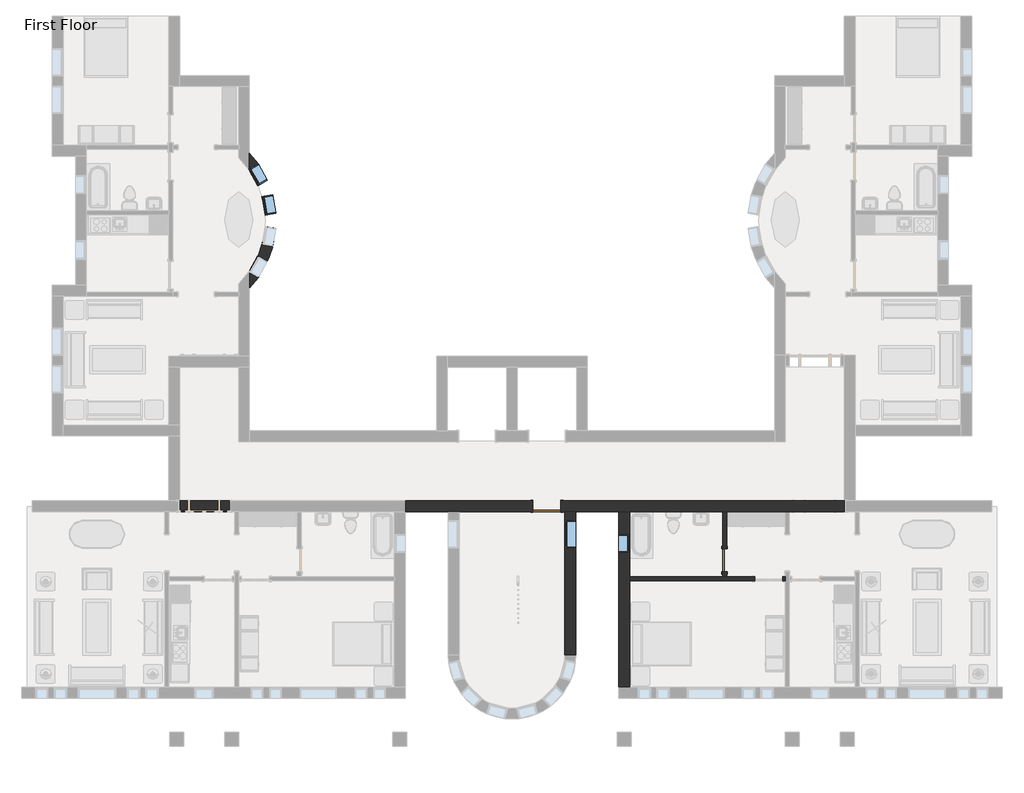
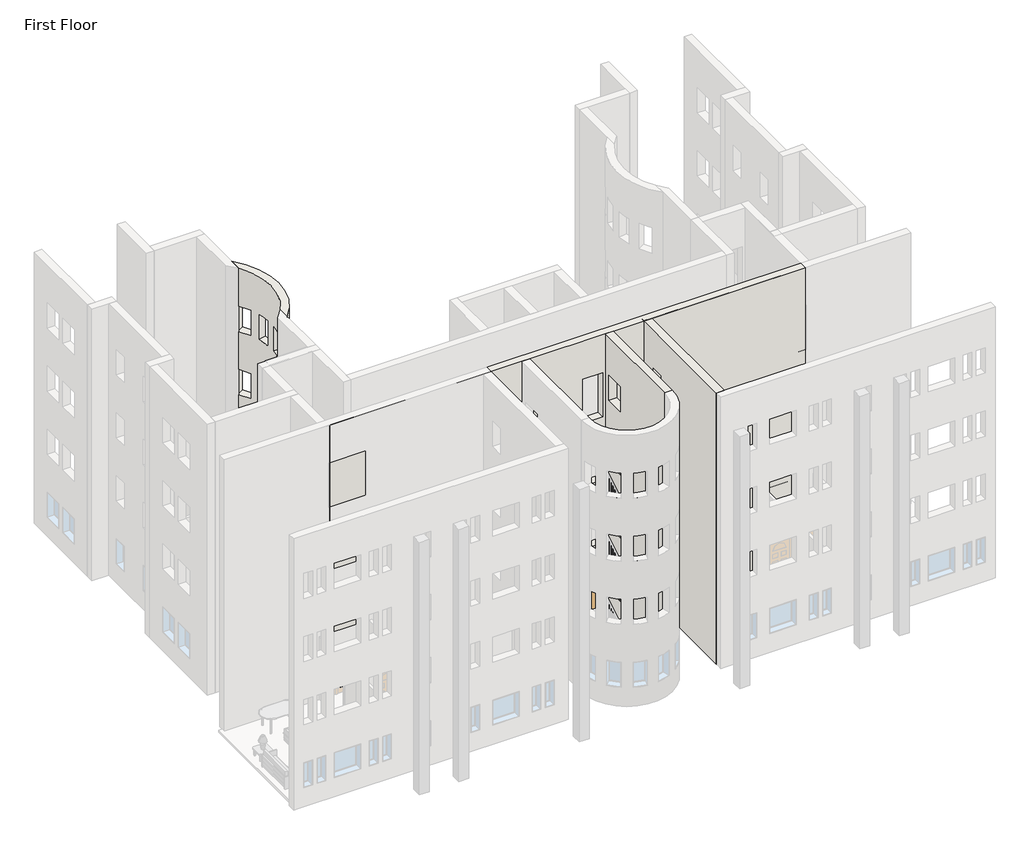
# One storey, part 5 of 21: 6 walls, 4 windows, 2 doors.
"""IFC4 building model written with IfcOpenShell, lengths in millimetres."""

from ifc_helpers import new_model, si_unit, frame, origin, place, context, project, spatial, polyline, circle_curve, outline, extrude, faceted_brep, transform, mapped, element, save
from ifc_brep_helpers import plane_surface, cylinder_surface, revolved_surface, advanced_brep
from components import door_e36758a9, door_cc5399a4, window_ed80354a, window_0e2fc6ce

model = new_model("IFC4")

# Units and contexts
model_context = context("Model", 3, world=origin())
ifc_project = project(units=[si_unit("LENGTHUNIT", "METRE", prefix="MILLI")], contexts=[model_context])

# Site, building, storey
site = spatial("IfcSite", under=ifc_project)
building = spatial("IfcBuilding", under=site)
storey = spatial("IfcBuildingStorey", under=building, Name="First Floor", Elevation=0.0)

# Doors
placement = place(None, origin())
door_shape = door_e36758a9(model_context)
element("IfcDoor", 1, ObjectType="Single-Flush : 30\" x 84\"", at=placement, inside=storey, context=model_context, shape_type="MappedRepresentation", body=[
    mapped(door_shape, transform((-8105.7464563, -29804.8308133, 0.0), x_axis=(0.0, -1.0, 0.0), y_axis=(1.0, 0.0, 0.0), z_axis=(0.0, 0.0, 1.0))),
])
door_2_shape = door_cc5399a4(model_context)
element("IfcDoor", 2, ObjectType="Single-Flush : 36\" x 84\"", at=placement, inside=storey, context=model_context, shape_type="MappedRepresentation", body=[
    mapped(door_2_shape, transform((-13919.1714563, -28041.1183133, 0.0), x_axis=(1.0, 0.0, 0.0), y_axis=(0.0, 1.0, 0.0), z_axis=(0.0, 0.0, 1.0))),
])

# Walls
element("IfcWall", 3, ObjectType="Exterior - Brick on Mtl. Stud", at=placement, inside=storey, context=model_context, shape_type="Brep", body=[
    faceted_brep([(-11569.6714563, -28217.3308133, 0.0), (-11569.6714563, -33960.9058133, 0.0), (-11569.6714563, -33960.9058133, 13106.4), (-11569.6714563, -28217.3308133, 13106.4), (-11569.6714563, -28955.5183133, 8229.6), (-11569.6714563, -29565.1183133, 8229.6), (-11569.6714563, -29565.1183133, 7010.4), (-11569.6714563, -28955.5183133, 7010.4), (-11569.6714563, -28955.5183133, 5181.6), (-11569.6714563, -29565.1183133, 5181.6), (-11569.6714563, -29565.1183133, 3962.4), (-11569.6714563, -28955.5183133, 3962.4), (-11569.6714563, -28955.5183133, 11277.6), (-11569.6714563, -29565.1183133, 11277.6), (-11569.6714563, -29565.1183133, 10058.4), (-11569.6714563, -28955.5183133, 10058.4), (-11569.6714563, -28955.5183133, 2133.6), (-11569.6714563, -29565.1183133, 2133.6), (-11569.6714563, -29565.1183133, 914.4), (-11569.6714563, -28955.5183133, 914.4), (-11217.2464563, -28217.3308133, 0.0), (-11217.2464563, -28217.3308133, 13106.4), (-11217.2464563, -33960.9058133, 13106.4), (-11217.2464563, -33960.9058133, 0.0), (-11217.2464563, -30477.9308133, 0.0), (-11217.2464563, -30350.9308133, 0.0), (-11217.2464563, -28955.5183133, 8229.6), (-11217.2464563, -28955.5183133, 7010.4), (-11217.2464563, -29565.1183133, 7010.4), (-11217.2464563, -29565.1183133, 8229.6), (-11217.2464563, -28955.5183133, 5181.6), (-11217.2464563, -28955.5183133, 3962.4), (-11217.2464563, -29565.1183133, 3962.4), (-11217.2464563, -29565.1183133, 5181.6), (-11217.2464563, -28955.5183133, 11277.6), (-11217.2464563, -28955.5183133, 10058.4), (-11217.2464563, -29565.1183133, 10058.4), (-11217.2464563, -29565.1183133, 11277.6), (-11217.2464563, -28955.5183133, 2133.6), (-11217.2464563, -28955.5183133, 914.4), (-11217.2464563, -29565.1183133, 914.4), (-11217.2464563, -29565.1183133, 2133.6), (-11382.3464563, -28217.3308133, 0.0), (-11382.3464563, -33960.9058133, 0.0)], [[[0, 1, 2, 3], [4, 5, 6, 7], [8, 9, 10, 11], [12, 13, 14, 15], [16, 17, 18, 19]], [[20, 21, 22, 23, 24, 25], [26, 27, 28, 29], [30, 31, 32, 33], [34, 35, 36, 37], [38, 39, 40, 41]], [[3, 2, 22, 21]], [[0, 3, 21, 20, 42]], [[2, 1, 43, 23, 22]], [[1, 0, 42, 43]], [[42, 20, 25, 24, 23, 43]], [[27, 26, 4, 7]], [[28, 27, 7, 6]], [[29, 28, 6, 5]], [[26, 29, 5, 4]], [[31, 30, 8, 11]], [[32, 31, 11, 10]], [[33, 32, 10, 9]], [[30, 33, 9, 8]], [[35, 34, 12, 15]], [[36, 35, 15, 14]], [[37, 36, 14, 13]], [[34, 37, 13, 12]], [[39, 38, 16, 19]], [[40, 39, 19, 18]], [[41, 40, 18, 17]], [[38, 41, 17, 16]]]),
])
element("IfcWall", 4, ObjectType="Exterior - Brick on Mtl. Stud", at=placement, inside=storey, context=model_context, shape_type="Brep", body=[
    faceted_brep([(-4189.3839563, -27864.9058133, 0.0), (-13461.9714563, -27864.9058133, 0.0), (-13461.9714563, -27864.9058133, 2133.6), (-14376.3714563, -27864.9058133, 2133.6), (-14376.3714563, -27864.9058133, 0.0), (-25934.9589563, -27864.9058133, 0.0), (-25934.9589563, -27864.9058133, 13106.4), (-4189.3839563, -27864.9058133, 13106.4), (-14376.3714563, -27864.9058133, 6096.0), (-13461.9714563, -27864.9058133, 6096.0), (-13461.9714563, -27864.9058133, 8229.6), (-14376.3714563, -27864.9058133, 8229.6), (-14376.3714563, -27864.9058133, 3048.0), (-13461.9714563, -27864.9058133, 3048.0), (-13461.9714563, -27864.9058133, 5181.6), (-14376.3714563, -27864.9058133, 5181.6), (-14376.3714563, -27864.9058133, 9144.0), (-13461.9714563, -27864.9058133, 9144.0), (-13461.9714563, -27864.9058133, 11277.6), (-14376.3714563, -27864.9058133, 11277.6), (-13461.9714563, -28217.3308133, 2133.6), (-13461.9714563, -28217.3308133, 0.0), (-13333.3839563, -28217.3308133, 0.0), (-12980.9589563, -28217.3308133, 0.0), (-8169.2464563, -28217.3308133, 0.0), (-8042.2464563, -28217.3308133, 0.0), (-6122.9589563, -28217.3308133, 0.0), (-5995.9589563, -28217.3308133, 0.0), (-4189.3839563, -28217.3308133, 0.0), (-4189.3839563, -28217.3308133, 13106.4), (-12980.9589563, -28217.3308133, 13106.4), (-13333.3839563, -28217.3308133, 13106.4), (-16790.9589563, -28217.3308133, 13106.4), (-17143.3839563, -28217.3308133, 13106.4), (-25934.9589563, -28217.3308133, 13106.4), (-25934.9589563, -28217.3308133, 0.0), (-24128.3839563, -28217.3308133, 0.0), (-24001.3839563, -28217.3308133, 0.0), (-22082.0964563, -28217.3308133, 0.0), (-21955.0964563, -28217.3308133, 0.0), (-17143.3839563, -28217.3308133, 0.0), (-16790.9589563, -28217.3308133, 0.0), (-14376.3714563, -28217.3308133, 0.0), (-14376.3714563, -28217.3308133, 2133.6), (-14376.3714563, -28217.3308133, 6096.0), (-14376.3714563, -28217.3308133, 8229.6), (-13461.9714563, -28217.3308133, 8229.6), (-13461.9714563, -28217.3308133, 6096.0), (-14376.3714563, -28217.3308133, 3048.0), (-14376.3714563, -28217.3308133, 5181.6), (-13461.9714563, -28217.3308133, 5181.6), (-13461.9714563, -28217.3308133, 3048.0), (-14376.3714563, -28217.3308133, 9144.0), (-14376.3714563, -28217.3308133, 11277.6), (-13461.9714563, -28217.3308133, 11277.6), (-13461.9714563, -28217.3308133, 9144.0)], [[[0, 1, 2, 3, 4, 5, 6, 7], [8, 9, 10, 11], [12, 13, 14, 15], [16, 17, 18, 19]], [[20, 21, 22, 23, 24, 25, 26, 27, 28, 29, 30, 31, 32, 33, 34, 35, 36, 37, 38, 39, 40, 41, 42, 43], [44, 45, 46, 47], [48, 49, 50, 51], [52, 53, 54, 55]], [[28, 27, 26, 25, 24, 23, 22, 21, 1, 0]], [[42, 41, 40, 39, 38, 37, 36, 35, 5, 4]], [[7, 6, 34, 33, 32, 31, 30, 29]], [[0, 7, 29, 28]], [[6, 5, 35, 34]], [[2, 1, 21, 20]], [[3, 2, 20, 43]], [[4, 3, 43, 42]], [[9, 8, 44, 47]], [[10, 9, 47, 46]], [[11, 10, 46, 45]], [[8, 11, 45, 44]], [[13, 12, 48, 51]], [[14, 13, 51, 50]], [[15, 14, 50, 49]], [[12, 15, 49, 48]], [[17, 16, 52, 55]], [[18, 17, 55, 54]], [[19, 18, 54, 53]], [[16, 19, 53, 52]]]),
])
element("IfcWall", 5, ObjectType="Exterior - Brick on Mtl. Stud", at=placement, inside=storey, context=model_context, shape_type="SweptSolid", body=[
    extrude(outline(polyline([(-28217.3308133, 0.0), (-32917.9183133, 0.0), (-32917.9183133, 13106.4), (-28217.3308133, 13106.4), (-28217.3308133, 0.0)]), holes=[polyline([(-29412.7183133, 8229.6), (-29412.7183133, 7010.4), (-28498.3183133, 7010.4), (-28498.3183133, 8229.6), (-29412.7183133, 8229.6)]), polyline([(-29412.7183133, 5181.6), (-29412.7183133, 3962.4), (-28498.3183133, 3962.4), (-28498.3183133, 5181.6), (-29412.7183133, 5181.6)]), polyline([(-29412.7183133, 11277.6), (-29412.7183133, 10058.4), (-28498.3183133, 10058.4), (-28498.3183133, 11277.6), (-29412.7183133, 11277.6)]), polyline([(-29412.7183133, 2133.6), (-29412.7183133, 914.4), (-28498.3183133, 914.4), (-28498.3183133, 2133.6), (-29412.7183133, 2133.6)])]), frame((-13333.3839563, 0.0, 0.0), z_axis=(1.0, 0.0, 0.0), x_axis=(0.0, 1.0, 0.0)), (0.0, 0.0, 1.0), 352.425),
])
element("IfcWall", 6, ObjectType="Exterior - Brick on Mtl. Stud", at=placement, inside=storey, context=model_context, shape_type="AdvancedBrep", body=[
    advanced_brep(
    [(-23648.9589563, -20907.8285473, 13106.4), (-23648.9589563, -16499.0580793, 13106.4), (-23648.9589563, -17056.9526635, 13106.4), (-23648.9589563, -20349.9339631, 13106.4), (-23648.9589563, -16499.0580793, 0.0), (-23648.9589563, -20907.8285473, 0.0), (-23648.9589563, -20349.9339631, 0.0), (-23648.9589563, -17056.9526635, 0.0), (-23063.8719855, -17375.4139611, 914.4), (-23063.8719855, -17375.4139611, 2133.6), (-23366.3500697, -16846.1511071, 2133.6), (-23366.3500697, -16846.1511071, 914.4), (-23063.8719855, -20031.4726656, 2133.6), (-23063.8719855, -20031.4726656, 914.4), (-23366.3500697, -20560.7355195, 914.4), (-23366.3500697, -20560.7355195, 2133.6), (-23063.8719855, -17375.4139611, 10058.4), (-23063.8719855, -17375.4139611, 11277.6), (-23366.3500697, -16846.1511071, 11277.6), (-23366.3500697, -16846.1511071, 10058.4), (-23063.8719855, -20031.4726656, 11277.6), (-23063.8719855, -20031.4726656, 10058.4), (-23366.3500697, -20560.7355195, 10058.4), (-23366.3500697, -20560.7355195, 11277.6), (-23063.8719855, -17375.4139611, 3962.4), (-23063.8719855, -17375.4139611, 5181.6), (-23366.3500697, -16846.1511071, 5181.6), (-23366.3500697, -16846.1511071, 3962.4), (-23063.8719855, -20031.4726656, 5181.6), (-23063.8719855, -20031.4726656, 3962.4), (-23366.3500697, -20560.7355195, 3962.4), (-23366.3500697, -20560.7355195, 5181.6), (-23063.8719855, -17375.4139611, 7010.4), (-23063.8719855, -17375.4139611, 8229.6), (-23366.3500697, -16846.1511071, 8229.6), (-23366.3500697, -16846.1511071, 7010.4), (-23063.8719855, -20031.4726656, 8229.6), (-23063.8719855, -20031.4726656, 7010.4), (-23366.3500697, -20560.7355195, 7010.4), (-23366.3500697, -20560.7355195, 8229.6), (-22786.9445035, -18947.8680431, 8229.6), (-22786.9445035, -18947.8680431, 7010.4), (-22890.4133094, -19548.6228734, 7010.4), (-22890.4133094, -19548.6228734, 8229.6), (-22786.9445035, -18459.0185836, 8229.6), (-22890.4133094, -17858.2637532, 8229.6), (-22890.4133094, -17858.2637532, 7010.4), (-22786.9445035, -18459.0185836, 7010.4), (-22786.9445035, -18947.8680431, 5181.6), (-22786.9445035, -18947.8680431, 3962.4), (-22890.4133094, -19548.6228734, 3962.4), (-22890.4133094, -19548.6228734, 5181.6), (-22786.9445035, -18459.0185836, 5181.6), (-22890.4133094, -17858.2637532, 5181.6), (-22890.4133094, -17858.2637532, 3962.4), (-22786.9445035, -18459.0185836, 3962.4), (-22786.9445035, -18947.8680431, 11277.6), (-22786.9445035, -18947.8680431, 10058.4), (-22890.4133094, -19548.6228734, 10058.4), (-22890.4133094, -19548.6228734, 11277.6), (-22786.9445035, -18459.0185836, 11277.6), (-22890.4133094, -17858.2637532, 11277.6), (-22890.4133094, -17858.2637532, 10058.4), (-22786.9445035, -18459.0185836, 10058.4), (-22786.9445035, -18947.8680431, 2133.6), (-22786.9445035, -18947.8680431, 914.4), (-22890.4133094, -19548.6228734, 914.4), (-22890.4133094, -19548.6228734, 2133.6), (-22786.9445035, -18459.0185836, 2133.6), (-22890.4133094, -17858.2637532, 2133.6), (-22890.4133094, -17858.2637532, 914.4), (-22786.9445035, -18459.0185836, 914.4), (-23648.9589563, -17056.9526635, 11277.6), (-23371.3988057, -17551.168074, 11277.6), (-23371.3988057, -17551.168074, 10058.4), (-23648.9589563, -17056.9526635, 10058.4), (-23648.9589563, -17056.9526635, 8229.6), (-23371.3988057, -17551.168074, 8229.6), (-23371.3988057, -17551.168074, 7010.4), (-23648.9589563, -17056.9526635, 7010.4), (-23648.9589563, -17056.9526635, 5181.6), (-23371.3988057, -17551.168074, 5181.6), (-23371.3988057, -17551.168074, 3962.4), (-23648.9589563, -17056.9526635, 3962.4), (-23648.9589563, -17056.9526635, 2133.6), (-23371.3988057, -17551.168074, 2133.6), (-23371.3988057, -17551.168074, 914.4), (-23648.9589563, -17056.9526635, 914.4), (-23648.9589563, -20349.9339631, 914.4), (-23371.3988057, -19855.7185526, 914.4), (-23371.3988057, -19855.7185526, 2133.6), (-23648.9589563, -20349.9339631, 2133.6), (-23648.9589563, -20349.9339631, 3962.4), (-23371.3988057, -19855.7185526, 3962.4), (-23371.3988057, -19855.7185526, 5181.6), (-23648.9589563, -20349.9339631, 5181.6), (-23648.9589563, -20349.9339631, 7010.4), (-23371.3988057, -19855.7185526, 7010.4), (-23371.3988057, -19855.7185526, 8229.6), (-23648.9589563, -20349.9339631, 8229.6), (-23648.9589563, -20349.9339631, 10058.4), (-23371.3988057, -19855.7185526, 10058.4), (-23371.3988057, -19855.7185526, 11277.6), (-23648.9589563, -20349.9339631, 11277.6), (-23136.0115527, -18887.7477595, 8229.6), (-23239.4803586, -19488.5025899, 8229.6), (-23239.4803586, -19488.5025899, 7010.4), (-23136.0115527, -18887.7477595, 7010.4), (-23136.0115527, -18519.1388671, 8229.6), (-23136.0115527, -18519.1388671, 7010.4), (-23239.4803586, -17918.3840368, 7010.4), (-23239.4803586, -17918.3840368, 8229.6), (-23136.0115527, -18887.7477595, 5181.6), (-23239.4803586, -19488.5025899, 5181.6), (-23239.4803586, -19488.5025899, 3962.4), (-23136.0115527, -18887.7477595, 3962.4), (-23136.0115527, -18519.1388671, 5181.6), (-23136.0115527, -18519.1388671, 3962.4), (-23239.4803586, -17918.3840368, 3962.4), (-23239.4803586, -17918.3840368, 5181.6), (-23136.0115527, -18887.7477595, 11277.6), (-23239.4803586, -19488.5025899, 11277.6), (-23239.4803586, -19488.5025899, 10058.4), (-23136.0115527, -18887.7477595, 10058.4), (-23136.0115527, -18519.1388671, 11277.6), (-23136.0115527, -18519.1388671, 10058.4), (-23239.4803586, -17918.3840368, 10058.4), (-23239.4803586, -17918.3840368, 11277.6), (-23136.0115527, -18887.7477595, 2133.6), (-23239.4803586, -19488.5025899, 2133.6), (-23239.4803586, -19488.5025899, 914.4), (-23136.0115527, -18887.7477595, 914.4), (-23136.0115527, -18519.1388671, 2133.6), (-23136.0115527, -18519.1388671, 914.4), (-23239.4803586, -17918.3840368, 914.4), (-23239.4803586, -17918.3840368, 2133.6), (-23648.9589563, -20399.222211, 11277.6), (-23648.9589563, -20399.222211, 10058.4), (-23648.9589563, -20399.222211, 8229.6), (-23648.9589563, -20399.222211, 7010.4), (-23648.9589563, -20399.222211, 5181.6), (-23648.9589563, -20399.222211, 3962.4), (-23648.9589563, -20399.222211, 2133.6), (-23648.9589563, -20399.222211, 914.4), (-23648.9589563, -17007.6644156, 914.4), (-23648.9589563, -17007.6644156, 2133.6), (-23648.9589563, -17007.6644156, 3962.4), (-23648.9589563, -17007.6644156, 5181.6), (-23648.9589563, -17007.6644156, 7010.4), (-23648.9589563, -17007.6644156, 8229.6), (-23648.9589563, -17007.6644156, 10058.4), (-23648.9589563, -17007.6644156, 11277.6)],
    [
        (0, 1, circle_curve(frame((-26001.8788413, -18703.4433133, 13106.4), z_axis=(0.0, 0.0, 1.0), x_axis=(0.0, -1.0, 0.0)), 3224.2125)),
        (1, 2),
        (2, 3, circle_curve(frame((-26001.8788413, -18703.4433133, 13106.4), z_axis=(0.0, 0.0, -1.0), x_axis=(0.0, -1.0, 0.0)), 2871.7875)),
        (3, 0),
        (4, 5, circle_curve(frame((-26001.8788413, -18703.4433133, 0.0), z_axis=(0.0, 0.0, -1.0), x_axis=(0.0, -1.0, 0.0)), 3224.2125)),
        (5, 6),
        (6, 7, circle_curve(frame((-26001.8788413, -18703.4433133, 0.0), z_axis=(0.0, 0.0, 1.0), x_axis=(0.0, -1.0, 0.0)), 2871.7875)),
        (7, 4),
        (0, 5),
        (4, 1),
        (8, 9),
        (9, 10, circle_curve(frame((-26001.8788413, -18703.4433133, 2133.6), z_axis=(0.0, 0.0, 1.0), x_axis=(0.0, -1.0, 0.0)), 3224.2125)),
        (10, 11),
        (11, 8, circle_curve(frame((-26001.8788413, -18703.4433133, 914.4), z_axis=(0.0, 0.0, -1.0), x_axis=(0.0, -1.0, 0.0)), 3224.2125)),
        (12, 13),
        (13, 14, circle_curve(frame((-26001.8788413, -18703.4433133, 914.4), z_axis=(0.0, 0.0, -1.0), x_axis=(0.0, -1.0, 0.0)), 3224.2125)),
        (14, 15),
        (15, 12, circle_curve(frame((-26001.8788413, -18703.4433133, 2133.6), z_axis=(0.0, 0.0, 1.0), x_axis=(0.0, -1.0, 0.0)), 3224.2125)),
        (16, 17),
        (17, 18, circle_curve(frame((-26001.8788413, -18703.4433133, 11277.6), z_axis=(0.0, 0.0, 1.0), x_axis=(0.0, -1.0, 0.0)), 3224.2125)),
        (18, 19),
        (19, 16, circle_curve(frame((-26001.8788413, -18703.4433133, 10058.4), z_axis=(0.0, 0.0, -1.0), x_axis=(0.0, -1.0, 0.0)), 3224.2125)),
        (20, 21),
        (21, 22, circle_curve(frame((-26001.8788413, -18703.4433133, 10058.4), z_axis=(0.0, 0.0, -1.0), x_axis=(0.0, -1.0, 0.0)), 3224.2125)),
        (22, 23),
        (23, 20, circle_curve(frame((-26001.8788413, -18703.4433133, 11277.6), z_axis=(0.0, 0.0, 1.0), x_axis=(0.0, -1.0, 0.0)), 3224.2125)),
        (24, 25),
        (25, 26, circle_curve(frame((-26001.8788413, -18703.4433133, 5181.6), z_axis=(0.0, 0.0, 1.0), x_axis=(0.0, -1.0, 0.0)), 3224.2125)),
        (26, 27),
        (27, 24, circle_curve(frame((-26001.8788413, -18703.4433133, 3962.4), z_axis=(0.0, 0.0, -1.0), x_axis=(0.0, -1.0, 0.0)), 3224.2125)),
        (28, 29),
        (29, 30, circle_curve(frame((-26001.8788413, -18703.4433133, 3962.4), z_axis=(0.0, 0.0, -1.0), x_axis=(0.0, -1.0, 0.0)), 3224.2125)),
        (30, 31),
        (31, 28, circle_curve(frame((-26001.8788413, -18703.4433133, 5181.6), z_axis=(0.0, 0.0, 1.0), x_axis=(0.0, -1.0, 0.0)), 3224.2125)),
        (32, 33),
        (33, 34, circle_curve(frame((-26001.8788413, -18703.4433133, 8229.6), z_axis=(0.0, 0.0, 1.0), x_axis=(0.0, -1.0, 0.0)), 3224.2125)),
        (34, 35),
        (35, 32, circle_curve(frame((-26001.8788413, -18703.4433133, 7010.4), z_axis=(0.0, 0.0, -1.0), x_axis=(0.0, -1.0, 0.0)), 3224.2125)),
        (36, 37),
        (37, 38, circle_curve(frame((-26001.8788413, -18703.4433133, 7010.4), z_axis=(0.0, 0.0, -1.0), x_axis=(0.0, -1.0, 0.0)), 3224.2125)),
        (38, 39),
        (39, 36, circle_curve(frame((-26001.8788413, -18703.4433133, 8229.6), z_axis=(0.0, 0.0, 1.0), x_axis=(0.0, -1.0, 0.0)), 3224.2125)),
        (40, 41),
        (41, 42, circle_curve(frame((-26001.8788413, -18703.4433133, 7010.4), z_axis=(0.0, 0.0, -1.0), x_axis=(0.0, -1.0, 0.0)), 3224.2125)),
        (42, 43),
        (43, 40, circle_curve(frame((-26001.8788413, -18703.4433133, 8229.6), z_axis=(0.0, 0.0, 1.0), x_axis=(0.0, -1.0, 0.0)), 3224.2125)),
        (44, 45, circle_curve(frame((-26001.8788413, -18703.4433133, 8229.6), z_axis=(0.0, 0.0, 1.0), x_axis=(0.0, -1.0, 0.0)), 3224.2125)),
        (45, 46),
        (46, 47, circle_curve(frame((-26001.8788413, -18703.4433133, 7010.4), z_axis=(0.0, 0.0, -1.0), x_axis=(0.0, -1.0, 0.0)), 3224.2125)),
        (47, 44),
        (48, 49),
        (49, 50, circle_curve(frame((-26001.8788413, -18703.4433133, 3962.4), z_axis=(0.0, 0.0, -1.0), x_axis=(0.0, -1.0, 0.0)), 3224.2125)),
        (50, 51),
        (51, 48, circle_curve(frame((-26001.8788413, -18703.4433133, 5181.6), z_axis=(0.0, 0.0, 1.0), x_axis=(0.0, -1.0, 0.0)), 3224.2125)),
        (52, 53, circle_curve(frame((-26001.8788413, -18703.4433133, 5181.6), z_axis=(0.0, 0.0, 1.0), x_axis=(0.0, -1.0, 0.0)), 3224.2125)),
        (53, 54),
        (54, 55, circle_curve(frame((-26001.8788413, -18703.4433133, 3962.4), z_axis=(0.0, 0.0, -1.0), x_axis=(0.0, -1.0, 0.0)), 3224.2125)),
        (55, 52),
        (56, 57),
        (57, 58, circle_curve(frame((-26001.8788413, -18703.4433133, 10058.4), z_axis=(0.0, 0.0, -1.0), x_axis=(0.0, -1.0, 0.0)), 3224.2125)),
        (58, 59),
        (59, 56, circle_curve(frame((-26001.8788413, -18703.4433133, 11277.6), z_axis=(0.0, 0.0, 1.0), x_axis=(0.0, -1.0, 0.0)), 3224.2125)),
        (60, 61, circle_curve(frame((-26001.8788413, -18703.4433133, 11277.6), z_axis=(0.0, 0.0, 1.0), x_axis=(0.0, -1.0, 0.0)), 3224.2125)),
        (61, 62),
        (62, 63, circle_curve(frame((-26001.8788413, -18703.4433133, 10058.4), z_axis=(0.0, 0.0, -1.0), x_axis=(0.0, -1.0, 0.0)), 3224.2125)),
        (63, 60),
        (64, 65),
        (65, 66, circle_curve(frame((-26001.8788413, -18703.4433133, 914.4), z_axis=(0.0, 0.0, -1.0), x_axis=(0.0, -1.0, 0.0)), 3224.2125)),
        (66, 67),
        (67, 64, circle_curve(frame((-26001.8788413, -18703.4433133, 2133.6), z_axis=(0.0, 0.0, 1.0), x_axis=(0.0, -1.0, 0.0)), 3224.2125)),
        (68, 69, circle_curve(frame((-26001.8788413, -18703.4433133, 2133.6), z_axis=(0.0, 0.0, 1.0), x_axis=(0.0, -1.0, 0.0)), 3224.2125)),
        (69, 70),
        (70, 71, circle_curve(frame((-26001.8788413, -18703.4433133, 914.4), z_axis=(0.0, 0.0, -1.0), x_axis=(0.0, -1.0, 0.0)), 3224.2125)),
        (71, 68),
        (2, 72),
        (72, 73, circle_curve(frame((-26001.8788413, -18703.4433133, 11277.6), z_axis=(0.0, 0.0, -1.0), x_axis=(0.0, -1.0, 0.0)), 2871.7875)),
        (73, 74),
        (74, 75, circle_curve(frame((-26001.8788413, -18703.4433133, 10058.4), z_axis=(0.0, 0.0, 1.0), x_axis=(0.0, -1.0, 0.0)), 2871.7875)),
        (75, 76),
        (76, 77, circle_curve(frame((-26001.8788413, -18703.4433133, 8229.6), z_axis=(0.0, 0.0, -1.0), x_axis=(0.0, -1.0, 0.0)), 2871.7875)),
        (77, 78),
        (78, 79, circle_curve(frame((-26001.8788413, -18703.4433133, 7010.4), z_axis=(0.0, 0.0, 1.0), x_axis=(0.0, -1.0, 0.0)), 2871.7875)),
        (79, 80),
        (80, 81, circle_curve(frame((-26001.8788413, -18703.4433133, 5181.6), z_axis=(0.0, 0.0, -1.0), x_axis=(0.0, -1.0, 0.0)), 2871.7875)),
        (81, 82),
        (82, 83, circle_curve(frame((-26001.8788413, -18703.4433133, 3962.4), z_axis=(0.0, 0.0, 1.0), x_axis=(0.0, -1.0, 0.0)), 2871.7875)),
        (83, 84),
        (84, 85, circle_curve(frame((-26001.8788413, -18703.4433133, 2133.6), z_axis=(0.0, 0.0, -1.0), x_axis=(0.0, -1.0, 0.0)), 2871.7875)),
        (85, 86),
        (86, 87, circle_curve(frame((-26001.8788413, -18703.4433133, 914.4), z_axis=(0.0, 0.0, 1.0), x_axis=(0.0, -1.0, 0.0)), 2871.7875)),
        (87, 7),
        (6, 88),
        (88, 89, circle_curve(frame((-26001.8788413, -18703.4433133, 914.4), z_axis=(0.0, 0.0, 1.0), x_axis=(0.0, -1.0, 0.0)), 2871.7875)),
        (89, 90),
        (90, 91, circle_curve(frame((-26001.8788413, -18703.4433133, 2133.6), z_axis=(0.0, 0.0, -1.0), x_axis=(0.0, -1.0, 0.0)), 2871.7875)),
        (91, 92),
        (92, 93, circle_curve(frame((-26001.8788413, -18703.4433133, 3962.4), z_axis=(0.0, 0.0, 1.0), x_axis=(0.0, -1.0, 0.0)), 2871.7875)),
        (93, 94),
        (94, 95, circle_curve(frame((-26001.8788413, -18703.4433133, 5181.6), z_axis=(0.0, 0.0, -1.0), x_axis=(0.0, -1.0, 0.0)), 2871.7875)),
        (95, 96),
        (96, 97, circle_curve(frame((-26001.8788413, -18703.4433133, 7010.4), z_axis=(0.0, 0.0, 1.0), x_axis=(0.0, -1.0, 0.0)), 2871.7875)),
        (97, 98),
        (98, 99, circle_curve(frame((-26001.8788413, -18703.4433133, 8229.6), z_axis=(0.0, 0.0, -1.0), x_axis=(0.0, -1.0, 0.0)), 2871.7875)),
        (99, 100),
        (100, 101, circle_curve(frame((-26001.8788413, -18703.4433133, 10058.4), z_axis=(0.0, 0.0, 1.0), x_axis=(0.0, -1.0, 0.0)), 2871.7875)),
        (101, 102),
        (102, 103, circle_curve(frame((-26001.8788413, -18703.4433133, 11277.6), z_axis=(0.0, 0.0, -1.0), x_axis=(0.0, -1.0, 0.0)), 2871.7875)),
        (103, 3),
        (104, 105, circle_curve(frame((-26001.8788413, -18703.4433133, 8229.6), z_axis=(0.0, 0.0, -1.0), x_axis=(0.0, -1.0, 0.0)), 2871.7875)),
        (105, 106),
        (106, 107, circle_curve(frame((-26001.8788413, -18703.4433133, 7010.4), z_axis=(0.0, 0.0, 1.0), x_axis=(0.0, -1.0, 0.0)), 2871.7875)),
        (107, 104),
        (108, 109),
        (109, 110, circle_curve(frame((-26001.8788413, -18703.4433133, 7010.4), z_axis=(0.0, 0.0, 1.0), x_axis=(0.0, -1.0, 0.0)), 2871.7875)),
        (110, 111),
        (111, 108, circle_curve(frame((-26001.8788413, -18703.4433133, 8229.6), z_axis=(0.0, 0.0, -1.0), x_axis=(0.0, -1.0, 0.0)), 2871.7875)),
        (112, 113, circle_curve(frame((-26001.8788413, -18703.4433133, 5181.6), z_axis=(0.0, 0.0, -1.0), x_axis=(0.0, -1.0, 0.0)), 2871.7875)),
        (113, 114),
        (114, 115, circle_curve(frame((-26001.8788413, -18703.4433133, 3962.4), z_axis=(0.0, 0.0, 1.0), x_axis=(0.0, -1.0, 0.0)), 2871.7875)),
        (115, 112),
        (116, 117),
        (117, 118, circle_curve(frame((-26001.8788413, -18703.4433133, 3962.4), z_axis=(0.0, 0.0, 1.0), x_axis=(0.0, -1.0, 0.0)), 2871.7875)),
        (118, 119),
        (119, 116, circle_curve(frame((-26001.8788413, -18703.4433133, 5181.6), z_axis=(0.0, 0.0, -1.0), x_axis=(0.0, -1.0, 0.0)), 2871.7875)),
        (120, 121, circle_curve(frame((-26001.8788413, -18703.4433133, 11277.6), z_axis=(0.0, 0.0, -1.0), x_axis=(0.0, -1.0, 0.0)), 2871.7875)),
        (121, 122),
        (122, 123, circle_curve(frame((-26001.8788413, -18703.4433133, 10058.4), z_axis=(0.0, 0.0, 1.0), x_axis=(0.0, -1.0, 0.0)), 2871.7875)),
        (123, 120),
        (124, 125),
        (125, 126, circle_curve(frame((-26001.8788413, -18703.4433133, 10058.4), z_axis=(0.0, 0.0, 1.0), x_axis=(0.0, -1.0, 0.0)), 2871.7875)),
        (126, 127),
        (127, 124, circle_curve(frame((-26001.8788413, -18703.4433133, 11277.6), z_axis=(0.0, 0.0, -1.0), x_axis=(0.0, -1.0, 0.0)), 2871.7875)),
        (128, 129, circle_curve(frame((-26001.8788413, -18703.4433133, 2133.6), z_axis=(0.0, 0.0, -1.0), x_axis=(0.0, -1.0, 0.0)), 2871.7875)),
        (129, 130),
        (130, 131, circle_curve(frame((-26001.8788413, -18703.4433133, 914.4), z_axis=(0.0, 0.0, 1.0), x_axis=(0.0, -1.0, 0.0)), 2871.7875)),
        (131, 128),
        (132, 133),
        (133, 134, circle_curve(frame((-26001.8788413, -18703.4433133, 914.4), z_axis=(0.0, 0.0, 1.0), x_axis=(0.0, -1.0, 0.0)), 2871.7875)),
        (134, 135),
        (135, 132, circle_curve(frame((-26001.8788413, -18703.4433133, 2133.6), z_axis=(0.0, 0.0, -1.0), x_axis=(0.0, -1.0, 0.0)), 2871.7875)),
        (103, 136),
        (136, 137),
        (137, 100),
        (99, 138),
        (138, 139),
        (139, 96),
        (95, 140),
        (140, 141),
        (141, 92),
        (91, 142),
        (142, 143),
        (143, 88),
        (87, 144),
        (144, 145),
        (145, 84),
        (83, 146),
        (146, 147),
        (147, 80),
        (79, 148),
        (148, 149),
        (149, 76),
        (75, 150),
        (150, 151),
        (151, 72),
        (85, 9),
        (8, 86),
        (11, 144),
        (10, 145),
        (12, 90),
        (89, 13),
        (143, 14),
        (142, 15),
        (73, 17),
        (16, 74),
        (19, 150),
        (18, 151),
        (20, 102),
        (101, 21),
        (137, 22),
        (136, 23),
        (81, 25),
        (24, 82),
        (27, 146),
        (26, 147),
        (28, 94),
        (93, 29),
        (141, 30),
        (140, 31),
        (77, 33),
        (32, 78),
        (35, 148),
        (34, 149),
        (36, 98),
        (97, 37),
        (139, 38),
        (138, 39),
        (40, 104),
        (107, 41),
        (106, 42),
        (105, 43),
        (108, 44),
        (47, 109),
        (46, 110),
        (45, 111),
        (48, 112),
        (115, 49),
        (114, 50),
        (113, 51),
        (116, 52),
        (55, 117),
        (54, 118),
        (53, 119),
        (56, 120),
        (123, 57),
        (122, 58),
        (121, 59),
        (124, 60),
        (63, 125),
        (62, 126),
        (61, 127),
        (64, 128),
        (131, 65),
        (130, 66),
        (129, 67),
        (132, 68),
        (71, 133),
        (70, 134),
        (69, 135),
    ],
    [
        plane_surface(frame((-26001.8788413, -21927.6558133, 13106.4), z_axis=(0.0, 0.0, 1.0), x_axis=(1.0, 0.0, 0.0))),
        plane_surface(frame((-26001.8788413, -21927.6558133, 0.0), z_axis=(0.0, 0.0, -1.0), x_axis=(-1.0, 0.0, 0.0))),
        cylinder_surface(frame((-26001.8788413, -18703.4433133, 0.0), z_axis=(0.0, 0.0, 1.0), x_axis=(0.0, -1.0, 0.0)), 3224.2125),
        revolved_surface(polyline([(-26001.8788413, -21575.230813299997, 0.0), (-26001.8788413, -21575.230813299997, 13106.4)]), (-26001.8788413, -18703.4433133, 0.0), (0.0, 0.0, -1.0)),
        plane_surface(frame((-23648.9589563, -23275.4433133, 0.0), z_axis=(-1.0, 0.0, 0.0), x_axis=(0.0, 1.0, 0.0))),
        plane_surface(frame((-23648.9589563, -14131.4433133, 0.0), z_axis=(-1.0, 0.0, 0.0), x_axis=(0.0, 1.0, 0.0))),
        plane_surface(frame((-21740.7148506, -16619.2187506, 2133.6), z_axis=(-0.49619108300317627, 0.8682133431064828, 0.0), x_axis=(-0.8682133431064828, -0.49619108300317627, 0.0))),
        plane_surface(frame((-21740.7148506, -16619.2187506, 914.4), z_axis=(0.0, 0.0, 1.0000000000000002), x_axis=(-0.8682133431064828, -0.49619108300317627, 0.0))),
        plane_surface(frame((-22043.1929348, -16089.9558966, 914.4), z_axis=(0.4961910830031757, -0.8682133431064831, 0.0), x_axis=(-0.8682133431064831, -0.4961910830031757, 0.0))),
        plane_surface(frame((-22043.1929348, -16089.9558966, 2133.6), z_axis=(0.0, 0.0, -1.0000000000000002), x_axis=(-0.8682133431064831, -0.4961910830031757, 0.0))),
        plane_surface(frame((-24387.0291204, -19275.2774551, 2133.6), z_axis=(-0.49619108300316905, -0.8682133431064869, 0.0), x_axis=(0.8682133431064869, -0.49619108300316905, 0.0))),
        plane_surface(frame((-24387.0291204, -19275.2774551, 914.4), z_axis=(0.0, 0.0, 1.0000000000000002), x_axis=(0.8682133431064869, -0.49619108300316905, 0.0))),
        plane_surface(frame((-24689.5072046, -19804.540309, 914.4), z_axis=(0.4961910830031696, 0.8682133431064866, 0.0), x_axis=(0.8682133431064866, -0.4961910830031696, 0.0))),
        plane_surface(frame((-24689.5072046, -19804.540309, 2133.6), z_axis=(0.0, 0.0, -1.0000000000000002), x_axis=(0.8682133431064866, -0.4961910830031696, 0.0))),
        plane_surface(frame((-21740.7148506, -16619.2187506, 11277.6), z_axis=(-0.4961910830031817, 0.8682133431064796, 0.0), x_axis=(-0.8682133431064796, -0.4961910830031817, 0.0))),
        plane_surface(frame((-21740.7148506, -16619.2187506, 10058.4), z_axis=(0.0, 0.0, 1.0), x_axis=(-0.8682133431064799, -0.4961910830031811, 0.0))),
        plane_surface(frame((-22043.1929348, -16089.9558966, 10058.4), z_axis=(0.4961910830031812, -0.8682133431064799, 0.0), x_axis=(-0.8682133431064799, -0.4961910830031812, 0.0))),
        plane_surface(frame((-22043.1929348, -16089.9558966, 11277.6), z_axis=(0.0, 0.0, -1.0), x_axis=(-0.8682133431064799, -0.4961910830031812, 0.0))),
        plane_surface(frame((-24387.0291204, -19275.2774551, 11277.6), z_axis=(-0.49619108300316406, -0.8682133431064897, 0.0), x_axis=(0.8682133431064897, -0.49619108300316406, 0.0))),
        plane_surface(frame((-24387.0291204, -19275.2774551, 10058.4), z_axis=(0.0, 0.0, 1.0), x_axis=(0.8682133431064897, -0.49619108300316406, 0.0))),
        plane_surface(frame((-24689.5072046, -19804.540309, 10058.4), z_axis=(0.49619108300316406, 0.8682133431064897, 0.0), x_axis=(0.8682133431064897, -0.49619108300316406, 0.0))),
        plane_surface(frame((-24689.5072046, -19804.540309, 11277.6), z_axis=(0.0, 0.0, -1.0), x_axis=(0.8682133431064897, -0.49619108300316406, 0.0))),
        plane_surface(frame((-21740.7148506, -16619.2187506, 5181.6), z_axis=(-0.4961910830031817, 0.8682133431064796, 0.0), x_axis=(-0.8682133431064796, -0.4961910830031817, 0.0))),
        plane_surface(frame((-21740.7148506, -16619.2187506, 3962.4), z_axis=(0.0, 0.0, 1.0), x_axis=(-0.8682133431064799, -0.4961910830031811, 0.0))),
        plane_surface(frame((-22043.1929348, -16089.9558966, 3962.4), z_axis=(0.4961910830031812, -0.8682133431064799, 0.0), x_axis=(-0.8682133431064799, -0.4961910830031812, 0.0))),
        plane_surface(frame((-22043.1929348, -16089.9558966, 5181.6), z_axis=(0.0, 0.0, -1.0), x_axis=(-0.8682133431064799, -0.4961910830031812, 0.0))),
        plane_surface(frame((-24387.0291204, -19275.2774551, 5181.6), z_axis=(-0.49619108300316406, -0.8682133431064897, 0.0), x_axis=(0.8682133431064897, -0.49619108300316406, 0.0))),
        plane_surface(frame((-24387.0291204, -19275.2774551, 3962.4), z_axis=(0.0, 0.0, 1.0), x_axis=(0.8682133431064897, -0.49619108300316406, 0.0))),
        plane_surface(frame((-24689.5072046, -19804.540309, 3962.4), z_axis=(0.49619108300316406, 0.8682133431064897, 0.0), x_axis=(0.8682133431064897, -0.49619108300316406, 0.0))),
        plane_surface(frame((-24689.5072046, -19804.540309, 5181.6), z_axis=(0.0, 0.0, -1.0), x_axis=(0.8682133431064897, -0.49619108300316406, 0.0))),
        plane_surface(frame((-21740.7148506, -16619.2187506, 8229.6), z_axis=(-0.4961910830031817, 0.8682133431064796, 0.0), x_axis=(-0.8682133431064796, -0.4961910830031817, 0.0))),
        plane_surface(frame((-21740.7148506, -16619.2187506, 7010.4), z_axis=(0.0, 0.0, 1.0), x_axis=(-0.8682133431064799, -0.4961910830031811, 0.0))),
        plane_surface(frame((-22043.1929348, -16089.9558966, 7010.4), z_axis=(0.4961910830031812, -0.8682133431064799, 0.0), x_axis=(-0.8682133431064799, -0.4961910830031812, 0.0))),
        plane_surface(frame((-22043.1929348, -16089.9558966, 8229.6), z_axis=(0.0, 0.0, -1.0), x_axis=(-0.8682133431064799, -0.4961910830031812, 0.0))),
        plane_surface(frame((-24387.0291204, -19275.2774551, 8229.6), z_axis=(-0.49619108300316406, -0.8682133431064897, 0.0), x_axis=(0.8682133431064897, -0.49619108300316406, 0.0))),
        plane_surface(frame((-24387.0291204, -19275.2774551, 7010.4), z_axis=(0.0, 0.0, 1.0), x_axis=(0.8682133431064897, -0.49619108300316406, 0.0))),
        plane_surface(frame((-24689.5072046, -19804.540309, 7010.4), z_axis=(0.49619108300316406, 0.8682133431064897, 0.0), x_axis=(0.8682133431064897, -0.49619108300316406, 0.0))),
        plane_surface(frame((-24689.5072046, -19804.540309, 8229.6), z_axis=(0.0, 0.0, -1.0), x_axis=(0.8682133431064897, -0.49619108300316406, 0.0))),
        plane_surface(frame((-22786.9445035, -18947.8680431, 8229.6), z_axis=(-0.1697322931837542, -0.9854902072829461, 0.0), x_axis=(-0.9854902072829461, 0.1697322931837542, 0.0))),
        plane_surface(frame((-22786.9445035, -18947.8680431, 7010.4), z_axis=(0.0, 0.0, 1.0), x_axis=(-0.9854902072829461, 0.1697322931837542, 0.0))),
        plane_surface(frame((-22890.4133094, -19548.6228734, 7010.4), z_axis=(0.16973229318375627, 0.9854902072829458, 0.0), x_axis=(-0.9854902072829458, 0.16973229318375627, 0.0))),
        plane_surface(frame((-22890.4133094, -19548.6228734, 8229.6), z_axis=(0.0, 0.0, -1.0), x_axis=(-0.9854902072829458, 0.16973229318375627, 0.0))),
        plane_surface(frame((-23136.0115527, -18519.1388671, 8229.6), z_axis=(-0.169732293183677, 0.9854902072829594, 0.0), x_axis=(0.9854902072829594, 0.169732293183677, 0.0))),
        plane_surface(frame((-23136.0115527, -18519.1388671, 7010.4), z_axis=(0.0, 0.0, 1.0), x_axis=(0.9854902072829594, 0.169732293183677, 0.0))),
        plane_surface(frame((-23239.4803586, -17918.3840368, 7010.4), z_axis=(0.16973229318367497, -0.9854902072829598, 0.0), x_axis=(0.9854902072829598, 0.16973229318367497, 0.0))),
        plane_surface(frame((-23239.4803586, -17918.3840368, 8229.6), z_axis=(0.0, 0.0, -1.0), x_axis=(0.9854902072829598, 0.16973229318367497, 0.0))),
        plane_surface(frame((-22786.9445035, -18947.8680431, 5181.6), z_axis=(-0.1697322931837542, -0.9854902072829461, 0.0), x_axis=(-0.9854902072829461, 0.1697322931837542, 0.0))),
        plane_surface(frame((-22786.9445035, -18947.8680431, 3962.4), z_axis=(0.0, 0.0, 1.0), x_axis=(-0.9854902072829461, 0.1697322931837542, 0.0))),
        plane_surface(frame((-22890.4133094, -19548.6228734, 3962.4), z_axis=(0.16973229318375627, 0.9854902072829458, 0.0), x_axis=(-0.9854902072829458, 0.16973229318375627, 0.0))),
        plane_surface(frame((-22890.4133094, -19548.6228734, 5181.6), z_axis=(0.0, 0.0, -1.0), x_axis=(-0.9854902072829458, 0.16973229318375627, 0.0))),
        plane_surface(frame((-23136.0115527, -18519.1388671, 5181.6), z_axis=(-0.169732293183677, 0.9854902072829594, 0.0), x_axis=(0.9854902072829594, 0.169732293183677, 0.0))),
        plane_surface(frame((-23136.0115527, -18519.1388671, 3962.4), z_axis=(0.0, 0.0, 1.0), x_axis=(0.9854902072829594, 0.169732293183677, 0.0))),
        plane_surface(frame((-23239.4803586, -17918.3840368, 3962.4), z_axis=(0.16973229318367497, -0.9854902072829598, 0.0), x_axis=(0.9854902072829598, 0.16973229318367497, 0.0))),
        plane_surface(frame((-23239.4803586, -17918.3840368, 5181.6), z_axis=(0.0, 0.0, -1.0), x_axis=(0.9854902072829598, 0.16973229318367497, 0.0))),
        plane_surface(frame((-22786.9445035, -18947.8680431, 11277.6), z_axis=(-0.1697322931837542, -0.9854902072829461, 0.0), x_axis=(-0.9854902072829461, 0.1697322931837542, 0.0))),
        plane_surface(frame((-22786.9445035, -18947.8680431, 10058.4), z_axis=(0.0, 0.0, 1.0), x_axis=(-0.9854902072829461, 0.1697322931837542, 0.0))),
        plane_surface(frame((-22890.4133094, -19548.6228734, 10058.4), z_axis=(0.16973229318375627, 0.9854902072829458, 0.0), x_axis=(-0.9854902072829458, 0.16973229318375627, 0.0))),
        plane_surface(frame((-22890.4133094, -19548.6228734, 11277.6), z_axis=(0.0, 0.0, -1.0), x_axis=(-0.9854902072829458, 0.16973229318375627, 0.0))),
        plane_surface(frame((-23136.0115527, -18519.1388671, 11277.6), z_axis=(-0.169732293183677, 0.9854902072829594, 0.0), x_axis=(0.9854902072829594, 0.169732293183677, 0.0))),
        plane_surface(frame((-23136.0115527, -18519.1388671, 10058.4), z_axis=(0.0, 0.0, 1.0), x_axis=(0.9854902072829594, 0.169732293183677, 0.0))),
        plane_surface(frame((-23239.4803586, -17918.3840368, 10058.4), z_axis=(0.16973229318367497, -0.9854902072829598, 0.0), x_axis=(0.9854902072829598, 0.16973229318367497, 0.0))),
        plane_surface(frame((-23239.4803586, -17918.3840368, 11277.6), z_axis=(0.0, 0.0, -1.0), x_axis=(0.9854902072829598, 0.16973229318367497, 0.0))),
        plane_surface(frame((-22786.9445035, -18947.8680431, 2133.6), z_axis=(-0.1697322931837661, -0.9854902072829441, 0.0), x_axis=(-0.9854902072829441, 0.1697322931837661, 0.0))),
        plane_surface(frame((-22786.9445035, -18947.8680431, 914.4), z_axis=(0.0, 0.0, 1.0), x_axis=(-0.9854902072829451, 0.16973229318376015, 0.0))),
        plane_surface(frame((-22890.4133094, -19548.6228734, 914.4), z_axis=(0.16973229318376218, 0.9854902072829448, 0.0), x_axis=(-0.9854902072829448, 0.16973229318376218, 0.0))),
        plane_surface(frame((-22890.4133094, -19548.6228734, 2133.6), z_axis=(0.0, 0.0, -1.0000000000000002), x_axis=(-0.9854902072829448, 0.16973229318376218, 0.0))),
        plane_surface(frame((-23136.0115527, -18519.1388671, 2133.6), z_axis=(-0.16973229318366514, 0.9854902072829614, 0.0), x_axis=(0.9854902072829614, 0.16973229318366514, 0.0))),
        plane_surface(frame((-23136.0115527, -18519.1388671, 914.4), z_axis=(0.0, 0.0, 1.0), x_axis=(0.9854902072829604, 0.16973229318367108, 0.0))),
        plane_surface(frame((-23239.4803586, -17918.3840368, 914.4), z_axis=(0.1697322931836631, -0.9854902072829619, 0.0), x_axis=(0.9854902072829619, 0.1697322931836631, 0.0))),
        plane_surface(frame((-23239.4803586, -17918.3840368, 2133.6), z_axis=(0.0, 0.0, -1.0000000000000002), x_axis=(0.9854902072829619, 0.1697322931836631, 0.0))),
    ],
    [
        (0, [[1, 2, 3, 4]]),
        (1, [[5, 6, 7, 8]]),
        (2, [[-1, 9, -5, 10], [11, 12, 13, 14], [15, 16, 17, 18], [19, 20, 21, 22], [23, 24, 25, 26], [27, 28, 29, 30], [31, 32, 33, 34], [35, 36, 37, 38], [39, 40, 41, 42], [43, 44, 45, 46], [47, 48, 49, 50], [51, 52, 53, 54], [55, 56, 57, 58], [59, 60, 61, 62], [63, 64, 65, 66], [67, 68, 69, 70], [71, 72, 73, 74]]),
        (3, [[-3, 75, 76, 77, 78, 79, 80, 81, 82, 83, 84, 85, 86, 87, 88, 89, 90, 91, -7, 92, 93, 94, 95, 96, 97, 98, 99, 100, 101, 102, 103, 104, 105, 106, 107, 108], [109, 110, 111, 112], [113, 114, 115, 116], [117, 118, 119, 120], [121, 122, 123, 124], [125, 126, 127, 128], [129, 130, 131, 132], [133, 134, 135, 136], [137, 138, 139, 140]]),
        (4, [[-4, -108, 141, 142, 143, -104, 144, 145, 146, -100, 147, 148, 149, -96, 150, 151, 152, -92, -6, -9]]),
        (5, [[-2, -10, -8, -91, 153, 154, 155, -87, 156, 157, 158, -83, 159, 160, 161, -79, 162, 163, 164, -75]]),
        (6, [[165, -11, 166, -89]]),
        (7, [[-166, -14, 167, -153, -90]]),
        (8, [[-167, -13, 168, -154]]),
        (9, [[-165, -88, -155, -168, -12]]),
        (10, [[169, -94, 170, -15]]),
        (11, [[-170, -93, -152, 171, -16]]),
        (12, [[-171, -151, 172, -17]]),
        (13, [[-169, -18, -172, -150, -95]]),
        (14, [[173, -19, 174, -77]]),
        (15, [[-174, -22, 175, -162, -78]]),
        (16, [[-175, -21, 176, -163]]),
        (17, [[-173, -76, -164, -176, -20]]),
        (18, [[177, -106, 178, -23]]),
        (19, [[-178, -105, -143, 179, -24]]),
        (20, [[-179, -142, 180, -25]]),
        (21, [[-177, -26, -180, -141, -107]]),
        (22, [[181, -27, 182, -85]]),
        (23, [[-182, -30, 183, -156, -86]]),
        (24, [[-183, -29, 184, -157]]),
        (25, [[-181, -84, -158, -184, -28]]),
        (26, [[185, -98, 186, -31]]),
        (27, [[-186, -97, -149, 187, -32]]),
        (28, [[-187, -148, 188, -33]]),
        (29, [[-185, -34, -188, -147, -99]]),
        (30, [[189, -35, 190, -81]]),
        (31, [[-190, -38, 191, -159, -82]]),
        (32, [[-191, -37, 192, -160]]),
        (33, [[-189, -80, -161, -192, -36]]),
        (34, [[193, -102, 194, -39]]),
        (35, [[-194, -101, -146, 195, -40]]),
        (36, [[-195, -145, 196, -41]]),
        (37, [[-193, -42, -196, -144, -103]]),
        (38, [[-43, 197, -112, 198]]),
        (39, [[-44, -198, -111, 199]]),
        (40, [[-45, -199, -110, 200]]),
        (41, [[-46, -200, -109, -197]]),
        (42, [[-113, 201, -50, 202]]),
        (43, [[-114, -202, -49, 203]]),
        (44, [[-115, -203, -48, 204]]),
        (45, [[-116, -204, -47, -201]]),
        (46, [[-51, 205, -120, 206]]),
        (47, [[-52, -206, -119, 207]]),
        (48, [[-53, -207, -118, 208]]),
        (49, [[-54, -208, -117, -205]]),
        (50, [[-121, 209, -58, 210]]),
        (51, [[-122, -210, -57, 211]]),
        (52, [[-123, -211, -56, 212]]),
        (53, [[-124, -212, -55, -209]]),
        (54, [[-59, 213, -128, 214]]),
        (55, [[-60, -214, -127, 215]]),
        (56, [[-61, -215, -126, 216]]),
        (57, [[-62, -216, -125, -213]]),
        (58, [[-129, 217, -66, 218]]),
        (59, [[-130, -218, -65, 219]]),
        (60, [[-131, -219, -64, 220]]),
        (61, [[-132, -220, -63, -217]]),
        (62, [[-67, 221, -136, 222]]),
        (63, [[-68, -222, -135, 223]]),
        (64, [[-69, -223, -134, 224]]),
        (65, [[-70, -224, -133, -221]]),
        (66, [[-137, 225, -74, 226]]),
        (67, [[-138, -226, -73, 227]]),
        (68, [[-139, -227, -72, 228]]),
        (69, [[-140, -228, -71, -225]]),
    ],
),
])
element("IfcWall", 7, ObjectType="Interior - 5\" Partition (2-hr)", at=placement, inside=storey, context=model_context, shape_type="Brep", body=[
    faceted_brep([(-6211.8589563, -30477.9308133, 2133.6), (-6211.8589563, -30477.9308133, 0.0), (-6122.9589563, -30477.9308133, 0.0), (-6122.9589563, -30477.9308133, 3048.0), (-11217.2464563, -30477.9308133, 3048.0), (-11217.2464563, -30477.9308133, 0.0), (-7126.2589563, -30477.9308133, 0.0), (-7126.2589563, -30477.9308133, 2133.6), (-6122.9589563, -30350.9308133, 0.0), (-6211.8589563, -30350.9308133, 0.0), (-6211.8589563, -30350.9308133, 2133.6), (-7126.2589563, -30350.9308133, 2133.6), (-7126.2589563, -30350.9308133, 0.0), (-8042.2464563, -30350.9308133, 0.0), (-8169.2464563, -30350.9308133, 0.0), (-11217.2464563, -30350.9308133, 0.0), (-11217.2464563, -30350.9308133, 3048.0), (-8169.2464563, -30350.9308133, 3048.0), (-8042.2464563, -30350.9308133, 3048.0), (-6122.9589563, -30350.9308133, 3048.0)], [[[0, 1, 2, 3, 4, 5, 6, 7]], [[8, 9, 10, 11, 12, 13, 14, 15, 16, 17, 18, 19]], [[2, 1, 9, 8]], [[6, 5, 15, 14, 13, 12]], [[4, 3, 19, 18, 17, 16]], [[5, 4, 16, 15]], [[3, 2, 8, 19]], [[10, 9, 1, 0]], [[11, 10, 0, 7]], [[12, 11, 7, 6]]]),
])
element("IfcWall", 8, ObjectType="Interior - 5\" Partition (2-hr)", at=placement, inside=storey, context=model_context, shape_type="SweptSolid", body=[
    extrude(outline(polyline([(-30185.8308133, 2133.6), (-30185.8308133, 0.0), (-30350.9308133, 0.0), (-30350.9308133, 3048.0), (-28217.3308133, 3048.0), (-28217.3308133, 0.0), (-29423.8308133, 0.0), (-29423.8308133, 2133.6), (-30185.8308133, 2133.6)])), frame((-8169.2464563, 0.0, 0.0), z_axis=(1.0, 0.0, 0.0), x_axis=(0.0, 1.0, 0.0)), (0.0, 0.0, 1.0), 127.0),
])

# Windows
window_shape = window_ed80354a(model_context)
element("IfcWindow", 9, ObjectType="Fixed : 24\" x 48\"", at=placement, inside=storey, context=model_context, shape_type="MappedRepresentation", body=[
    mapped(window_shape, transform((-11393.4589563, -29222.2183133, 0.0), x_axis=(0.0, 1.0, 0.0), y_axis=(-1.0, 0.0, 0.0), z_axis=(0.0, 0.0, 1.0))),
])
element("IfcWindow", 10, ObjectType="Fixed : 24\" x 48\"", at=placement, inside=storey, context=model_context, shape_type="MappedRepresentation", body=[
    mapped(window_shape, transform((-23349.1961911, -17231.2965337, 0.0), x_axis=(0.4961910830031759, -0.8682133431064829, 0.0), y_axis=(0.8682133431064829, 0.4961910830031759, 0.0), z_axis=(0.0, 0.0, 1.0))),
])
element("IfcWindow", 11, ObjectType="Fixed : 24\" x 48\"", at=placement, inside=storey, context=model_context, shape_type="MappedRepresentation", body=[
    mapped(window_shape, transform((-23005.8677992, -18226.097297, 0.0), x_axis=(0.16973229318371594, -0.9854902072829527, 0.0), y_axis=(0.9854902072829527, 0.16973229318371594, 0.0), z_axis=(0.0, 0.0, 1.0))),
])
window_2_shape = window_0e2fc6ce(model_context)
element("IfcWindow", 12, ObjectType="Fixed : 36\" x 48\"", at=placement, inside=storey, context=model_context, shape_type="MappedRepresentation", body=[
    mapped(window_2_shape, transform((-13157.1714563, -28993.6183133, 0.0), x_axis=(0.0, -1.0, 0.0), y_axis=(1.0, 0.0, 0.0), z_axis=(0.0, 0.0, 1.0))),
])

save(model, "model.ifc")
